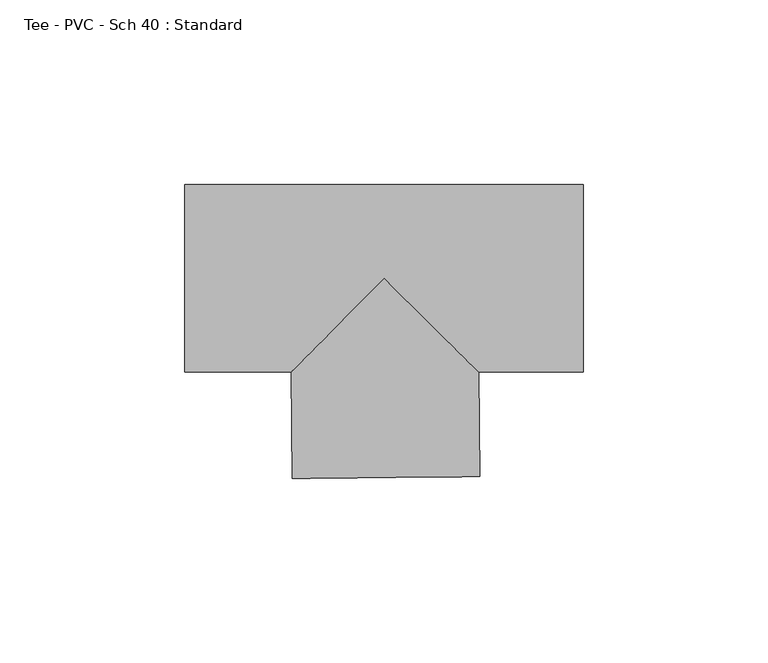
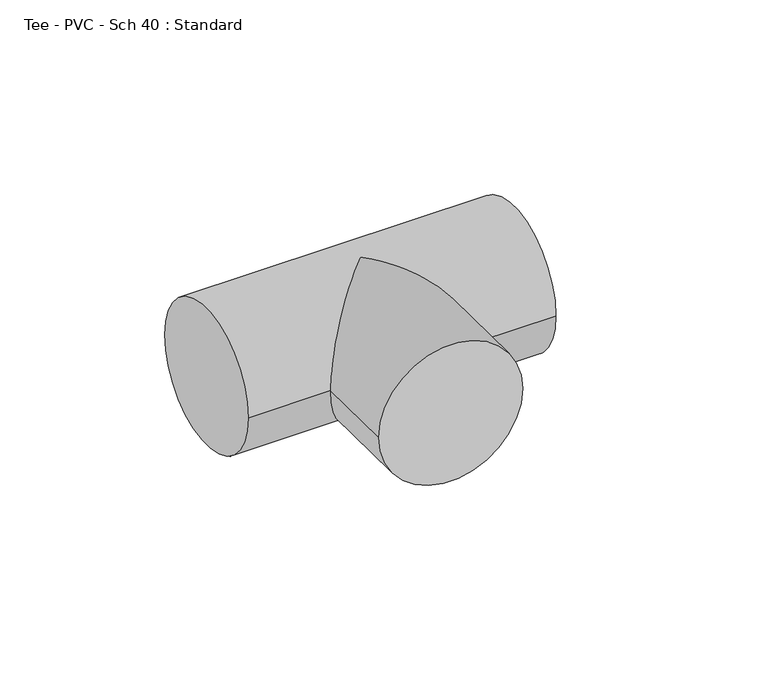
"""IFC4 building model written with IfcOpenShell, lengths in millimetres: pipe fitting geometry, Tee - PVC - Sch 40 : Standard."""

from ifc_helpers import new_model, si_unit, frame, origin, place, context, project, spatial, circle_curve, ellipse_curve, source, transform, mapped, element, save
from ifc_brep_helpers import plane_surface, cylinder_surface, advanced_brep


def tee_pvc_sch_40_standard_9c13fb8e(model_context):
    return source(origin(), model_context, "Body", "AdvancedBrep", [
        advanced_brep(
        [(-53.975, -25.4, 0.0), (-53.975, 25.4, 0.0), (53.975, -25.4, 0.0), (53.975, 25.4, 0.0), (-25.1367947, -25.4, 0.0), (0.0, 0.0, 25.4), (25.6659613, -25.4, 0.0), (0.0, 0.0, -25.4), (-24.836413, -54.2366409, 0.0), (25.9608312, -53.7075029, 0.0)],
        [
            (0, 1, circle_curve(frame((-53.975, 0.0, 0.0), z_axis=(-1.0, 0.0, 0.0), x_axis=(0.0, 1.0, 0.0)), 25.4)),
            (1, 0, circle_curve(frame((-53.975, 0.0, 0.0), z_axis=(-1.0, 0.0, 0.0), x_axis=(0.0, 1.0, 0.0)), 25.4)),
            (2, 3, circle_curve(frame((53.975, 0.0, 0.0), z_axis=(1.0, 0.0, 0.0), x_axis=(0.0, 1.0, 0.0)), 25.4)),
            (3, 2, circle_curve(frame((53.975, 0.0, 0.0), z_axis=(1.0, 0.0, 0.0), x_axis=(0.0, 1.0, 0.0)), 25.4)),
            (0, 4),
            (4, 5, ellipse_curve(frame((0.0, 0.0, 0.0), z_axis=(-0.7107798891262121, 0.703414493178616, 0.0), x_axis=(-0.7034144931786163, -0.710779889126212, 0.0)), 35.7353949, 25.4)),
            (5, 6, ellipse_curve(frame((0.0, 0.0, 0.0), z_axis=(0.7034144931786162, 0.7107798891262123, 0.0), x_axis=(-0.7107798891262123, 0.703414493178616, 0.0)), 36.1095773, 25.4)),
            (6, 2),
            (3, 1),
            (6, 7, ellipse_curve(frame((0.0, 0.0, 0.0), z_axis=(0.7034144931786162, 0.7107798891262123, 0.0), x_axis=(-0.7107798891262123, 0.703414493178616, 0.0)), 36.1095773, 25.4)),
            (7, 4, ellipse_curve(frame((0.0, 0.0, 0.0), z_axis=(-0.7107798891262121, 0.703414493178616, 0.0), x_axis=(-0.7034144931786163, -0.710779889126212, 0.0)), 35.7353949, 25.4)),
            (8, 9, circle_curve(frame((0.5622091, -53.9720719, 0.0), z_axis=(0.010416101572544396, -0.9999457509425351, 0.0), x_axis=(0.9999457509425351, 0.010416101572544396, 0.0)), 25.4)),
            (9, 8, circle_curve(frame((0.5622091, -53.9720719, 0.0), z_axis=(0.010416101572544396, -0.9999457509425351, 0.0), x_axis=(0.9999457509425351, 0.010416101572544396, 0.0)), 25.4)),
            (9, 6),
            (4, 8),
        ],
        [
            plane_surface(frame((-53.975, 0.0, 0.0), z_axis=(-1.0, 0.0, 0.0), x_axis=(0.0, 0.0, 1.0))),
            plane_surface(frame((53.975, 0.0, 0.0), z_axis=(1.0, 0.0, 0.0), x_axis=(0.0, 0.0, 1.0))),
            cylinder_surface(frame((-53.975, 0.0, 0.0), z_axis=(-1.0, 0.0, 0.0), x_axis=(0.0, 1.0, 0.0)), 25.4),
            plane_surface(frame((0.5622091, -53.9720719, 0.0), z_axis=(0.010416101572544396, -0.9999457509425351, 0.0), x_axis=(0.0, 0.0, 1.0))),
            cylinder_surface(frame((0.0, 0.0, 0.0), z_axis=(-0.010416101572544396, 0.9999457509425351, 0.0), x_axis=(0.9999457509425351, 0.010416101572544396, 0.0)), 25.4),
        ],
        [
            (0, [[1, 2]]),
            (1, [[3, 4]]),
            (2, [[-1, 5, 6, 7, 8, -4, 9]]),
            (2, [[-2, -9, -3, -8, 10, 11, -5]]),
            (3, [[12, 13]]),
            (4, [[-13, 14, -7, -6, 15]]),
            (4, [[-12, -15, -11, -10, -14]]),
        ],
    ),
    ])


if __name__ == "__main__":
    model = new_model("IFC4")
    model_context = context("Model", 3, world=origin())
    ifc_project = project(units=[si_unit("LENGTHUNIT", "METRE", prefix="MILLI")], contexts=[model_context])
    site = spatial("IfcSite", under=ifc_project)
    building = spatial("IfcBuilding", under=site)
    placement = place(None, origin())
    tee_pvc_sch_40_standard_shape = tee_pvc_sch_40_standard_9c13fb8e(model_context)
    element("IfcPipeFitting", 1, ObjectType="Tee - PVC - Sch 40 : Standard", at=placement, inside=building, context=model_context, shape_type="MappedRepresentation", body=[
        mapped(tee_pvc_sch_40_standard_shape, transform((0.0, 0.0, 0.0), x_axis=(1.0, 0.0, 0.0), y_axis=(0.0, 1.0, 0.0), z_axis=(0.0, 0.0, 1.0))),
    ])
    save(model, "model.ifc")
